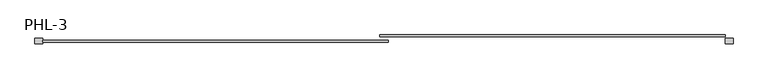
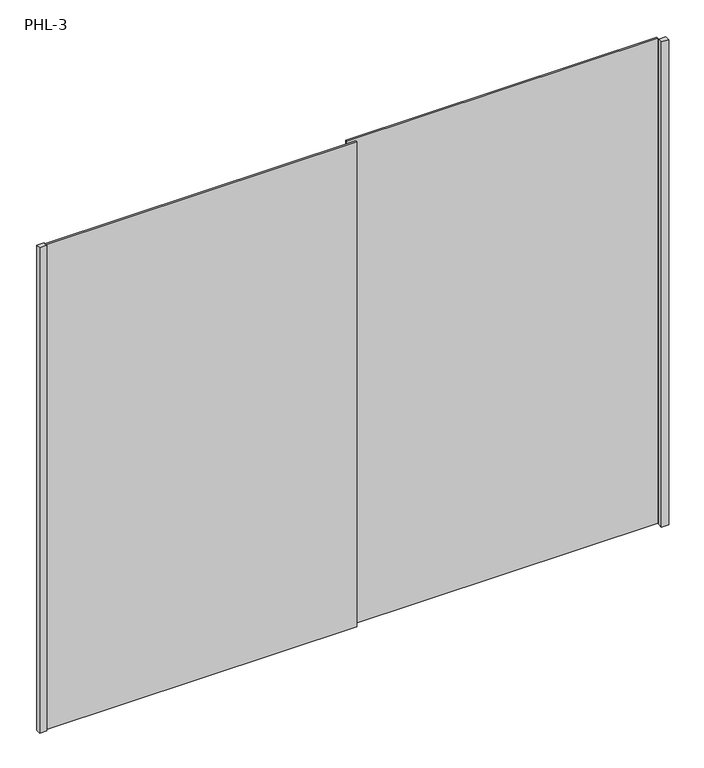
"""IFC4 building model written with IfcOpenShell, lengths in millimetres: furniture geometry, Puerta Closet corre 2 hojas : PHL-3."""

from ifc_helpers import new_model, si_unit, origin, origin_with_axes, place, context, project, spatial, polyline, outline, extrude, source, transform, mapped, element, save


def phl_3_2737df76(model_context):
    return source(origin(), model_context, "Body", "SweptSolid", [
        extrude(outline(polyline([(760.0, 80.0), (730.0, 80.0), (730.0, 100.0), (760.0, 100.0), (760.0, 80.0)])), origin_with_axes(), (0.0, 0.0, 1.0), 2120.0),
        extrude(outline(polyline([(730.0, 106.6666667), (-555.0, 106.6666667), (-555.0, 113.3333333), (730.0, 113.3333333), (730.0, 106.6666667)])), origin_with_axes(), (0.0, 0.0, 1.0), 2120.0),
        extrude(outline(polyline([(-525.0, 86.6666667), (-1810.0, 86.6666667), (-1810.0, 93.3333333), (-525.0, 93.3333333), (-525.0, 86.6666667)])), origin_with_axes(), (0.0, 0.0, 1.0), 2120.0),
        extrude(outline(polyline([(-1840.0, 80.0), (-1840.0, 100.0), (-1810.0, 100.0), (-1810.0, 80.0), (-1840.0, 80.0)])), origin_with_axes(), (0.0, 0.0, 1.0), 2120.0),
    ])


if __name__ == "__main__":
    model = new_model("IFC4")
    model_context = context("Model", 3, world=origin())
    ifc_project = project(units=[si_unit("LENGTHUNIT", "METRE", prefix="MILLI")], contexts=[model_context])
    site = spatial("IfcSite", under=ifc_project)
    building = spatial("IfcBuilding", under=site)
    placement = place(None, origin())
    phl_3_shape = phl_3_2737df76(model_context)
    element("IfcFurniture", 1, ObjectType="Puerta Closet corre 2 hojas : PHL-3", at=placement, inside=building, context=model_context, shape_type="MappedRepresentation", body=[
        mapped(phl_3_shape, transform((0.0, 0.0, 0.0), x_axis=(1.0, 0.0, 0.0), y_axis=(0.0, 1.0, 0.0), z_axis=(0.0, 0.0, 1.0))),
    ])
    save(model, "model.ifc")
